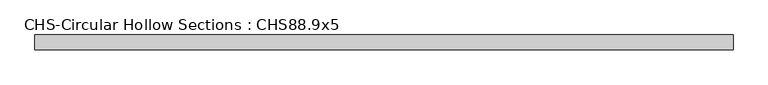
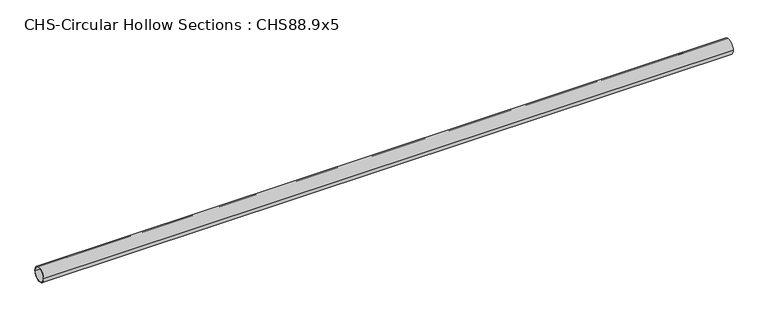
"""IFC4 building model written with IfcOpenShell, lengths in millimetres: beam geometry, CHS-Circular Hollow Sections : CHS88.9x5."""

from ifc_helpers import new_model, si_unit, point, frame, origin, origin_2d, place, context, project, spatial, circle_curve, trimmed, segment, composite_curve, outline, extrude, source, transform, mapped, element, save


def chs_circular_hollow_sections_chs88_9x5_fd41268f(model_context):
    return source(origin(), model_context, "Body", "SweptSolid", [
        extrude(outline(composite_curve([segment(trimmed(circle_curve(origin_2d(), 44.45), [point((-44.45, 0.0))], [point((44.45, 0.0))], False, "CARTESIAN"), True, "CONTINUOUS"), segment(trimmed(circle_curve(origin_2d(), 44.45), [point((44.45, 0.0))], [point((-44.45, 0.0))], False, "CARTESIAN"), True, "CONTINUOUS")], self_intersect=False), holes=[composite_curve([segment(trimmed(circle_curve(origin_2d(), 39.45), [point((39.45, 0.0))], [point((-39.45, 0.0))], True, "CARTESIAN"), True, "CONTINUOUS"), segment(trimmed(circle_curve(origin_2d(), 39.45), [point((-39.45, 0.0))], [point((39.45, 0.0))], True, "CARTESIAN"), True, "CONTINUOUS")], self_intersect=False)]), frame((-1986.5, 0.0, 0.0), z_axis=(1.0, 0.0, 0.0), x_axis=(0.0, 1.0, 0.0)), (0.0, 0.0, 1.0), 4143.0),
    ])


if __name__ == "__main__":
    model = new_model("IFC4")
    model_context = context("Model", 3, world=origin())
    ifc_project = project(units=[si_unit("LENGTHUNIT", "METRE", prefix="MILLI")], contexts=[model_context])
    site = spatial("IfcSite", under=ifc_project)
    building = spatial("IfcBuilding", under=site)
    placement = place(None, origin())
    chs_circular_hollow_sections_chs88_9x5_shape = chs_circular_hollow_sections_chs88_9x5_fd41268f(model_context)
    element("IfcBeam", 1, ObjectType="CHS-Circular Hollow Sections : CHS88.9x5", at=placement, inside=building, context=model_context, shape_type="MappedRepresentation", body=[
        mapped(chs_circular_hollow_sections_chs88_9x5_shape, transform((0.0, 0.0, 0.0), x_axis=(1.0, 0.0, 0.0), y_axis=(0.0, 1.0, 0.0), z_axis=(0.0, 0.0, 1.0))),
    ])
    save(model, "model.ifc")
